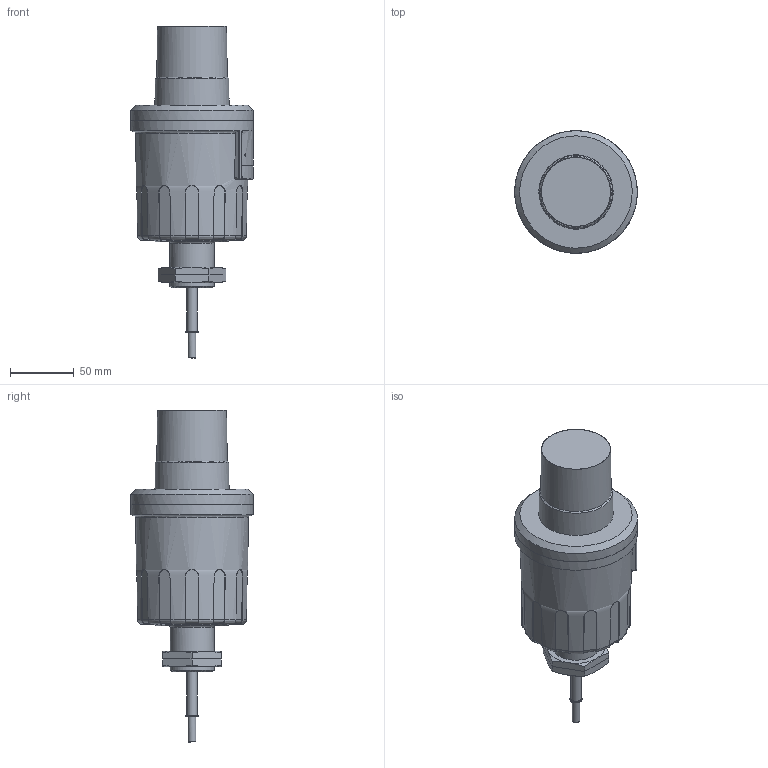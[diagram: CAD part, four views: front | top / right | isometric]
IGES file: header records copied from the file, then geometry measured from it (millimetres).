
Global section: file name: SP_380; native system: Autodesk Inventor 2015; preprocessor: unknown; author: aantal; date: 20150623.094558; units: millimetre
Bounding box: 96 x 95.95 x 260 mm (x, y, z)
Volume: 846780.2 mm3; surface area: 86465.1 mm2
Topology: 5 solids, 5 shells, 291 faces, 769 edges, 508 vertices
Faces by surface type: bspline 291
